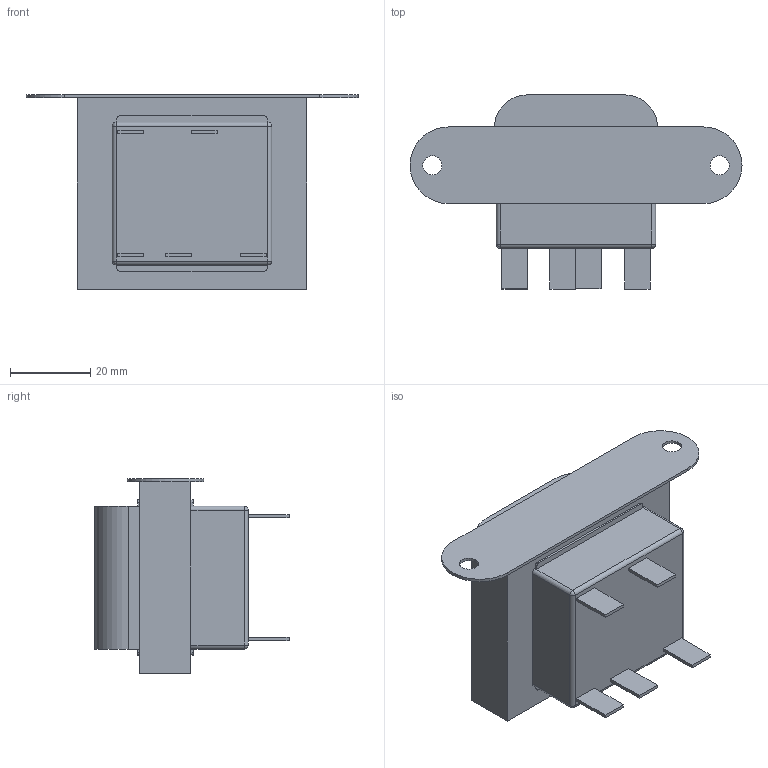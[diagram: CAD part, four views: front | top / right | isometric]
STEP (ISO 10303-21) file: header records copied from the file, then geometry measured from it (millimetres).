
FILE_DESCRIPTION((''),'2;1');
FILE_NAME('C-2-1611447-1','2018-08-31T',('workeradm'),('TE Connectivity Ltd.'),'CREO PARAMETRIC BY PTC INC, 2016050','CREO PARAMETRIC BY PTC INC, 2016050','');
FILE_SCHEMA(('AUTOMOTIVE_DESIGN { 1 0 10303 214 1 1 1 1 }'));
Length unit declared in the file: millimetre
Products named in the file (1): C-2-1611447-1
Bounding box: 82.55 x 48.26 x 48.39 mm (x, y, z)
Volume: 71165 mm3; surface area: 13912.4 mm2
Topology: 1 solids, 1 shells, 88 faces, 222 edges, 144 vertices
Faces by surface type: plane 60, cylinder 24, sphere 4
Entity records: 2670 total; most frequent: CARTESIAN_POINT 456, DIRECTION 446, ORIENTED_EDGE 444, EDGE_CURVE 222, VECTOR 174, LINE 174, VERTEX_POINT 144, AXIS2_PLACEMENT_3D 136
